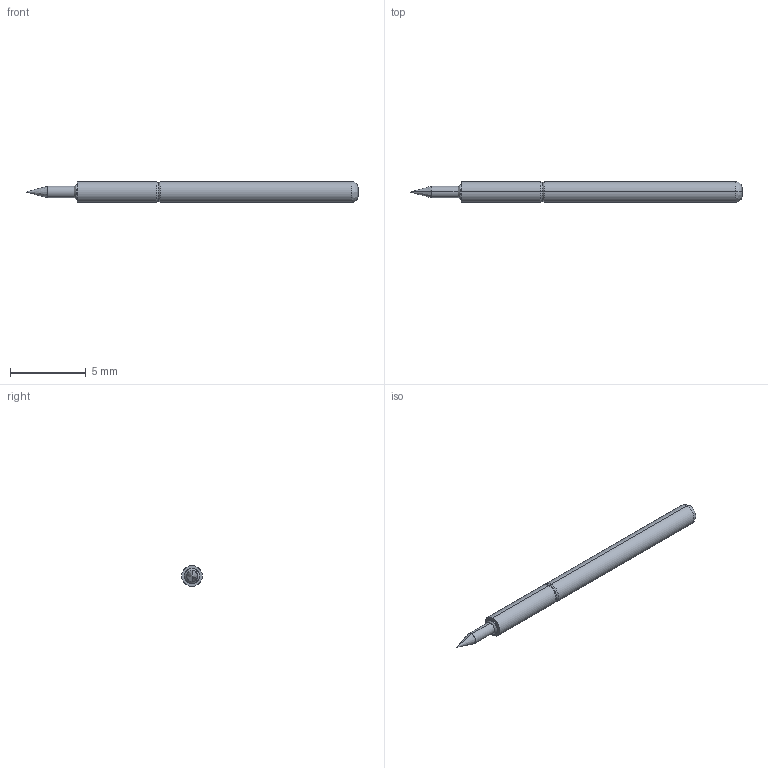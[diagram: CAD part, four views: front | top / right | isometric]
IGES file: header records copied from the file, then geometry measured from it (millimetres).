
Start section: SolidWorks IGES file using analytic representation for surfaces
Global section: file name: Z:\probe solid model mockups\Solidworks models\IGES Files\EPA-2\EPA-2B30 RECD.IGS; native system: SolidWorks 2006 by SolidWorks Corporation; preprocessor: SolidWorks 2006 by SolidWorks Corporation; author: tsakatani; date: 071220.161336; units: inch
Bounding box: 21.92 x 1.37 x 1.37 mm (x, y, z)
Surface area: 88 mm2 (no closed solid volume)
Topology: 0 solids, 0 shells, 20 faces, 120 edges, 118 vertices
Faces by surface type: revolution 12, bspline 8
